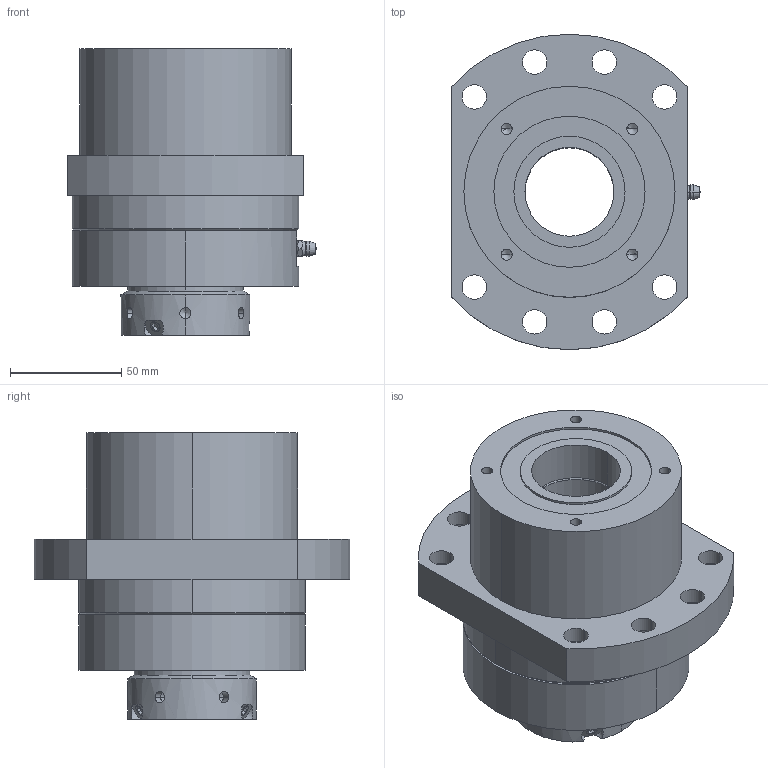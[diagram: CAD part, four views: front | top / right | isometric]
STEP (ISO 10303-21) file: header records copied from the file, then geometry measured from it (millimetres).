
FILE_DESCRIPTION (( 'STEP AP203' ), '1' );
FILE_NAME ('SWBK40G-DFF.STEP', '2018-09-15T05:24:14', ( '' ), ( '' ), 'SwSTEP 2.0', 'SolidWorks 2015', '' );
FILE_SCHEMA (( 'CONFIG_CONTROL_DESIGN' ));
Length unit declared in the file: millimetre
Products named in the file (1): SWBK40G-DFF
Bounding box: 111.9 x 142 x 129 mm (x, y, z)
Volume: 729815.6 mm3; surface area: 204029 mm2
Topology: 69 solids, 81 shells, 908 faces, 2242 edges, 1249 vertices
Faces by surface type: cylinder 272, plane 243, bspline 231, cone 126, torus 36
Entity records: 31932 total; most frequent: CARTESIAN_POINT 12917, DIRECTION 3941, ORIENTED_EDGE 3856, EDGE_CURVE 1928, AXIS2_PLACEMENT_3D 1665, VERTEX_POINT 1249, EDGE_LOOP 1029, CIRCLE 987
